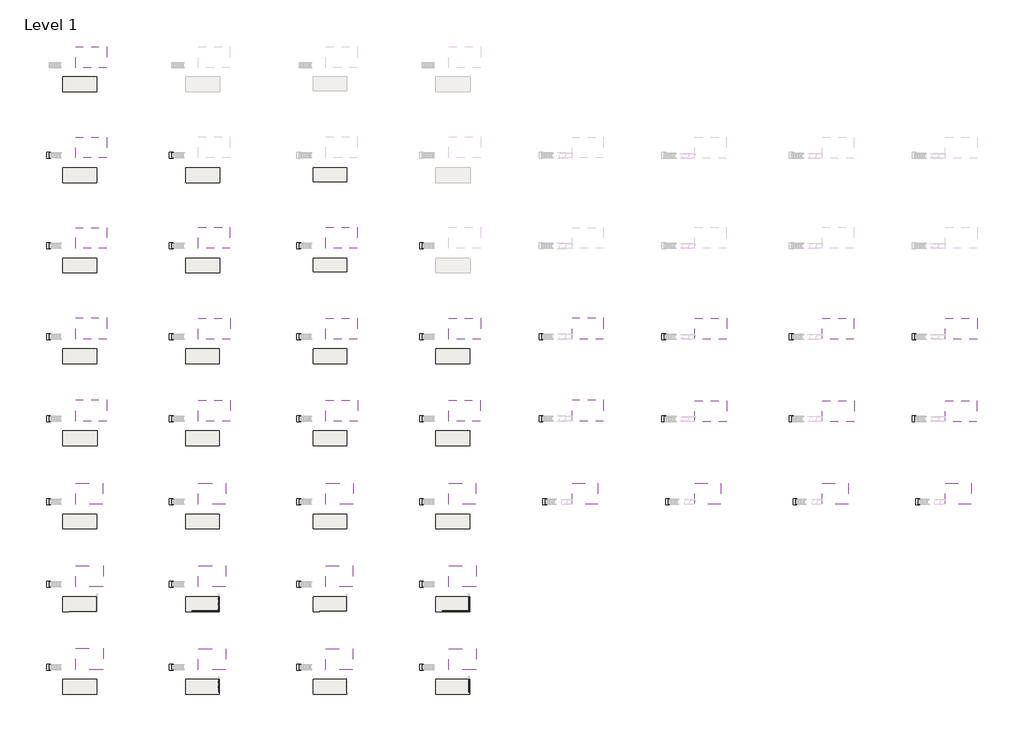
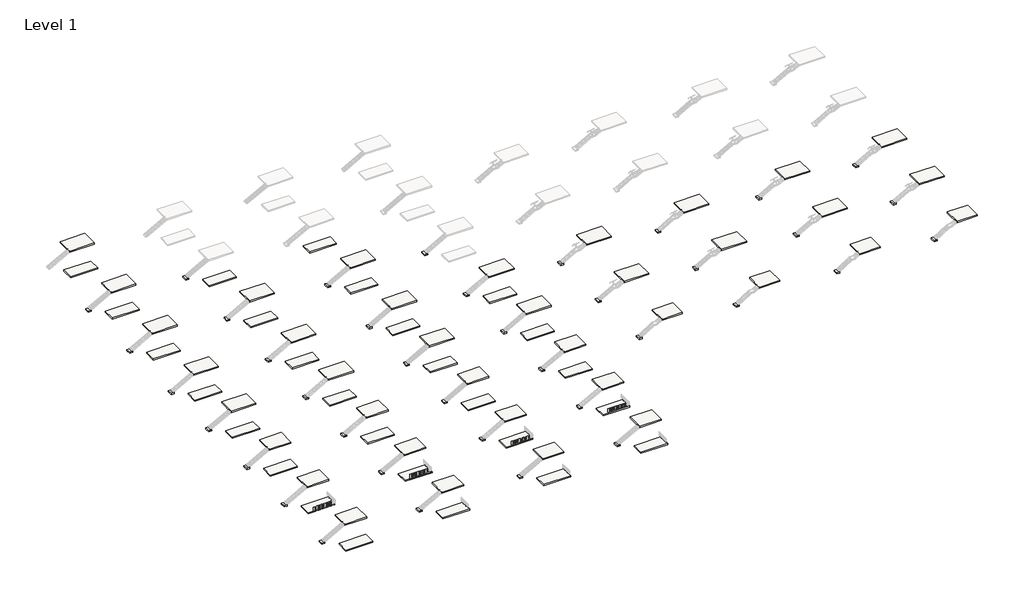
# One storey, part 1 of 26: 102 slabs.
"""IFC4 building model written with IfcOpenShell, lengths in millimetres."""

from ifc_helpers import new_model, si_unit, frame, origin, place, context, project, spatial, polyline, outline, extrude, element, save

model = new_model("IFC4")

# Units and contexts
model_context = context("Model", 3, world=origin())
ifc_project = project(units=[si_unit("LENGTHUNIT", "METRE", prefix="MILLI")], contexts=[model_context])

# Site, building, storey
site = spatial("IfcSite", under=ifc_project)
building = spatial("IfcBuilding", under=site)
storey = spatial("IfcBuildingStorey", under=building, Name="Level 1", Elevation=0.0)

# Slabs
placement = place(None, origin())
element("IfcSlab", 1, ObjectType="Generic - 7 3/4\"", at=placement, inside=storey, context=model_context, shape_type="SweptSolid", body=[
    extrude(outline(polyline([(-4933.3882474, 10855.2487388), (-11740.5882474, 10855.2487388), (-11740.5882474, 13852.4487388), (-4933.3882474, 13852.4487388), (-4933.3882474, 10855.2487388)])), frame((0.0, 0.0, -296.7736), z_axis=(0.0, 0.0, 1.0), x_axis=(1.0, 0.0, 0.0)), (0.0, 0.0, 1.0), 296.7736),
])
element("IfcSlab", 2, ObjectType="Generic - 7 3/4\"", at=placement, inside=storey, context=model_context, shape_type="SweptSolid", body=[
    extrude(outline(polyline([(19819.7855247, 10855.2487388), (12936.3855247, 10855.2487388), (12936.3855247, 13852.4487388), (19819.7855247, 13852.4487388), (19819.7855247, 10855.2487388)])), frame((0.0, 0.0, -296.7736), z_axis=(0.0, 0.0, 1.0), x_axis=(1.0, 0.0, 0.0)), (0.0, 0.0, 1.0), 296.7736),
])
element("IfcSlab", 3, ObjectType="Generic - 7 3/4\"", at=placement, inside=storey, context=model_context, shape_type="SweptSolid", body=[
    extrude(outline(polyline([(45346.7861192, 11058.4481443), (38539.5855247, 11058.4481443), (38539.5855247, 13852.4487388), (45346.7861192, 13852.4487388), (45346.7861192, 11058.4481443)])), frame((0.0, 0.0, -296.7736), z_axis=(0.0, 0.0, 1.0), x_axis=(1.0, 0.0, 0.0)), (0.0, 0.0, 1.0), 296.7736),
])
element("IfcSlab", 4, ObjectType="Generic - 7 3/4\"", at=placement, inside=storey, context=model_context, shape_type="SweptSolid", body=[
    extrude(outline(polyline([(-4933.3882474, -40584.2726373), (-11740.5882474, -40584.2726373), (-11740.5882474, -37587.0726373), (-4933.3882474, -37587.0726373), (-4933.3882474, -40584.2726373)])), frame((0.0, 0.0, -296.7736), z_axis=(0.0, 0.0, 1.0), x_axis=(1.0, 0.0, 0.0)), (0.0, 0.0, 1.0), 296.7736),
])
element("IfcSlab", 5, ObjectType="Generic - 7 3/4\"", at=placement, inside=storey, context=model_context, shape_type="SweptSolid", body=[
    extrude(outline(polyline([(45346.7855247, -40584.2726373), (38539.5855247, -40584.2726373), (38539.5855247, -37587.0726373), (45346.7855247, -37587.0726373), (45346.7855247, -40584.2726373)])), frame((0.0, 0.0, -296.7736), z_axis=(0.0, 0.0, 1.0), x_axis=(1.0, 0.0, 0.0)), (0.0, 0.0, 1.0), 296.7736),
])
element("IfcSlab", 6, ObjectType="Generic - 7 3/4\"", at=placement, inside=storey, context=model_context, shape_type="SweptSolid", body=[
    extrude(outline(polyline([(19743.5855247, -40584.2726373), (12936.3855247, -40584.2726373), (12936.3855247, -37587.0726373), (19743.5855247, -37587.0726373), (19743.5855247, -40584.2726373)])), frame((0.0, 0.0, -296.7736), z_axis=(0.0, 0.0, 1.0), x_axis=(1.0, 0.0, 0.0)), (0.0, 0.0, 1.0), 296.7736),
])
element("IfcSlab", 7, ObjectType="Generic - 7 3/4\"", at=placement, inside=storey, context=model_context, shape_type="SweptSolid", body=[
    extrude(outline(polyline([(-4933.3882474, -7391.5764311), (-11740.5882474, -7391.5764311), (-11740.5882474, -4394.3764311), (-4933.3882474, -4394.3764311), (-4933.3882474, -7391.5764311)])), frame((0.0, 0.0, -296.7736), z_axis=(0.0, 0.0, 1.0), x_axis=(1.0, 0.0, 0.0)), (0.0, 0.0, 1.0), 296.7736),
])
element("IfcSlab", 8, ObjectType="Generic - 7 3/4\"", at=placement, inside=storey, context=model_context, shape_type="SweptSolid", body=[
    extrude(outline(polyline([(45346.7855247, -7391.5764311), (38539.5855247, -7391.5764311), (38539.5855247, -4394.3764311), (45346.7855247, -4394.3764311), (45346.7855247, -7391.5764311)])), frame((0.0, 0.0, -296.7736), z_axis=(0.0, 0.0, 1.0), x_axis=(1.0, 0.0, 0.0)), (0.0, 0.0, 1.0), 296.7736),
])
element("IfcSlab", 9, ObjectType="Generic - 7 3/4\"", at=placement, inside=storey, context=model_context, shape_type="SweptSolid", body=[
    extrude(outline(polyline([(19743.5855247, -7391.5764311), (12936.3855247, -7391.5764311), (12936.3855247, -4394.3764311), (19743.5855247, -4394.3764311), (19743.5855247, -7391.5764311)])), frame((0.0, 0.0, -296.7736), z_axis=(0.0, 0.0, 1.0), x_axis=(1.0, 0.0, 0.0)), (0.0, 0.0, 1.0), 296.7736),
])
element("IfcSlab", 10, ObjectType="Generic - 7 3/4\"", at=placement, inside=storey, context=model_context, shape_type="SweptSolid", body=[
    extrude(outline(polyline([(-4831.7884531, -23859.4898555), (-11740.5882474, -23859.4898555), (-11740.5882474, -20862.2898555), (-4831.7884531, -20862.2898555), (-4831.7884531, -23859.4898555)])), frame((0.0, 0.0, -296.7736), z_axis=(0.0, 0.0, 1.0), x_axis=(1.0, 0.0, 0.0)), (0.0, 0.0, 1.0), 296.7736),
])
element("IfcSlab", 11, ObjectType="Generic - 7 3/4\"", at=placement, inside=storey, context=model_context, shape_type="SweptSolid", body=[
    extrude(outline(polyline([(45346.7855247, -23859.4898555), (38539.5855247, -23859.4898555), (38539.5855247, -20862.2898555), (45346.7855247, -20862.2898555), (45346.7855247, -23859.4898555)])), frame((0.0, 0.0, -296.7736), z_axis=(0.0, 0.0, 1.0), x_axis=(1.0, 0.0, 0.0)), (0.0, 0.0, 1.0), 296.7736),
])
element("IfcSlab", 12, ObjectType="Generic - 7 3/4\"", at=placement, inside=storey, context=model_context, shape_type="SweptSolid", body=[
    extrude(outline(polyline([(19743.5855247, -23859.4898555), (12936.3855247, -23859.4898555), (12936.3855247, -20862.2898555), (19743.5855247, -20862.2898555), (19743.5855247, -23859.4898555)])), frame((0.0, 0.0, -296.7736), z_axis=(0.0, 0.0, 1.0), x_axis=(1.0, 0.0, 0.0)), (0.0, 0.0, 1.0), 296.7736),
])
element("IfcSlab", 13, ObjectType="Generic - 7 3/4\"", at=placement, inside=storey, context=model_context, shape_type="SweptSolid", body=[
    extrude(outline(polyline([(-4933.3882474, -57184.4334719), (-11740.5882474, -57184.4334719), (-11740.5882474, -54187.2334719), (-4933.3882474, -54187.2334719), (-4933.3882474, -57184.4334719)])), frame((0.0, 0.0, -296.7736), z_axis=(0.0, 0.0, 1.0), x_axis=(1.0, 0.0, 0.0)), (0.0, 0.0, 1.0), 296.7736),
])
element("IfcSlab", 14, ObjectType="Generic - 7 3/4\"", at=placement, inside=storey, context=model_context, shape_type="SweptSolid", body=[
    extrude(outline(polyline([(45346.7855247, -57184.4334719), (38539.5855247, -57184.4334719), (38539.5855247, -54187.2334719), (45346.7855247, -54187.2334719), (45346.7855247, -57184.4334719)])), frame((0.0, 0.0, -296.7736), z_axis=(0.0, 0.0, 1.0), x_axis=(1.0, 0.0, 0.0)), (0.0, 0.0, 1.0), 296.7736),
])
element("IfcSlab", 15, ObjectType="Generic - 7 3/4\"", at=placement, inside=storey, context=model_context, shape_type="SweptSolid", body=[
    extrude(outline(polyline([(19743.5855247, -57184.4334719), (12936.3855247, -57184.4334719), (12936.3855247, -54187.2334719), (19743.5855247, -54187.2334719), (19743.5855247, -57184.4334719)])), frame((0.0, 0.0, -296.7736), z_axis=(0.0, 0.0, 1.0), x_axis=(1.0, 0.0, 0.0)), (0.0, 0.0, 1.0), 296.7736),
])
element("IfcSlab", 16, ObjectType="Generic - 7 3/4\"", at=placement, inside=storey, context=model_context, shape_type="SweptSolid", body=[
    extrude(outline(polyline([(70023.7592968, -40584.2726373), (63216.5592968, -40584.2726373), (63216.5592968, -37587.0726373), (70023.7592968, -37587.0726373), (70023.7592968, -40584.2726373)])), frame((0.0, 0.0, -296.7736), z_axis=(0.0, 0.0, 1.0), x_axis=(1.0, 0.0, 0.0)), (0.0, 0.0, 1.0), 296.7736),
])
element("IfcSlab", 17, ObjectType="Generic - 7 3/4\"", at=placement, inside=storey, context=model_context, shape_type="SweptSolid", body=[
    extrude(outline(polyline([(70023.7592968, -7391.5764311), (63216.5592968, -7391.5764311), (63216.5592968, -4394.3764311), (70023.7592968, -4394.3764311), (70023.7592968, -7391.5764311)])), frame((0.0, 0.0, -296.7736), z_axis=(0.0, 0.0, 1.0), x_axis=(1.0, 0.0, 0.0)), (0.0, 0.0, 1.0), 296.7736),
])
element("IfcSlab", 18, ObjectType="Generic - 7 3/4\"", at=placement, inside=storey, context=model_context, shape_type="SweptSolid", body=[
    extrude(outline(polyline([(70023.7592968, -23859.4898555), (63216.5592968, -23859.4898555), (63216.5592968, -20862.2898555), (70023.7592968, -20862.2898555), (70023.7592968, -23859.4898555)])), frame((0.0, 0.0, -296.7736), z_axis=(0.0, 0.0, 1.0), x_axis=(1.0, 0.0, 0.0)), (0.0, 0.0, 1.0), 296.7736),
])
element("IfcSlab", 19, ObjectType="Generic - 7 3/4\"", at=placement, inside=storey, context=model_context, shape_type="SweptSolid", body=[
    extrude(outline(polyline([(70023.7592968, -57184.4334719), (63216.5592968, -57184.4334719), (63216.5592968, -54187.2334719), (70023.7592968, -54187.2334719), (70023.7592968, -57184.4334719)])), frame((0.0, 0.0, -296.7736), z_axis=(0.0, 0.0, 1.0), x_axis=(1.0, 0.0, 0.0)), (0.0, 0.0, 1.0), 296.7736),
])
element("IfcSlab", 20, ObjectType="Generic - 7 3/4\"", at=placement, inside=storey, context=model_context, shape_type="SweptSolid", body=[
    extrude(outline(polyline([(-14244.2503044, -19021.0990002), (-15006.2503044, -19021.0990002), (-15006.2503044, -17801.8990002), (-14244.2503044, -17801.8990002), (-14244.2503044, -19021.0990002)])), frame((0.0, 0.0, -296.7736), z_axis=(0.0, 0.0, 1.0), x_axis=(1.0, 0.0, 0.0)), (0.0, 0.0, 1.0), 296.7736),
])
element("IfcSlab", 21, ObjectType="Generic - 7 3/4\"", at=placement, inside=storey, context=model_context, shape_type="SweptSolid", body=[
    extrude(outline(polyline([(-14244.2503044, -2553.1855758), (-15006.2503044, -2553.1855758), (-15006.2503044, -1333.9855758), (-14244.2503044, -1333.9855758), (-14244.2503044, -2553.1855758)])), frame((0.0, 0.0, -296.7736), z_axis=(0.0, 0.0, 1.0), x_axis=(1.0, 0.0, 0.0)), (0.0, 0.0, 1.0), 296.7736),
])
element("IfcSlab", 22, ObjectType="Generic - 7 3/4\"", at=placement, inside=storey, context=model_context, shape_type="SweptSolid", body=[
    extrude(outline(polyline([(-14244.2503044, 15693.6395941), (-15006.2503044, 15693.6395941), (-15006.2503044, 16912.8395941), (-14244.2503044, 16912.8395941), (-14244.2503044, 15693.6395941)])), frame((0.0, 0.0, -296.7736), z_axis=(0.0, 0.0, 1.0), x_axis=(1.0, 0.0, 0.0)), (0.0, 0.0, 1.0), 296.7736),
])
element("IfcSlab", 23, ObjectType="Generic - 7 3/4\"", at=placement, inside=storey, context=model_context, shape_type="SweptSolid", body=[
    extrude(outline(polyline([(10432.7234676, 15693.6395941), (9670.7234676, 15693.6395941), (9670.7234676, 16912.8395941), (10432.7234676, 16912.8395941), (10432.7234676, 15693.6395941)])), frame((0.0, 0.0, -296.7736), z_axis=(0.0, 0.0, 1.0), x_axis=(1.0, 0.0, 0.0)), (0.0, 0.0, 1.0), 296.7736),
])
element("IfcSlab", 24, ObjectType="Generic - 7 3/4\"", at=placement, inside=storey, context=model_context, shape_type="SweptSolid", body=[
    extrude(outline(polyline([(36035.9234676, 15693.6395941), (35273.9234676, 15693.6395941), (35273.9234676, 16912.8395941), (36035.9234676, 16912.8395941), (36035.9234676, 15693.6395941)])), frame((0.0, 0.0, -296.7736), z_axis=(0.0, 0.0, 1.0), x_axis=(1.0, 0.0, 0.0)), (0.0, 0.0, 1.0), 296.7736),
])
element("IfcSlab", 25, ObjectType="Generic - 7 3/4\"", at=placement, inside=storey, context=model_context, shape_type="SweptSolid", body=[
    extrude(outline(polyline([(60712.8972397, 15693.6395941), (59950.8972397, 15693.6395941), (59950.8972397, 16912.8395941), (60712.8972397, 16912.8395941), (60712.8972397, 15693.6395941)])), frame((0.0, 0.0, -296.7736), z_axis=(0.0, 0.0, 1.0), x_axis=(1.0, 0.0, 0.0)), (0.0, 0.0, 1.0), 296.7736),
])
element("IfcSlab", 26, ObjectType="Generic - 7 3/4\"", at=placement, inside=storey, context=model_context, shape_type="SweptSolid", body=[
    extrude(outline(polyline([(10432.7234676, -2553.1855758), (9670.7234676, -2553.1855758), (9670.7234676, -1333.9855758), (10432.7234676, -1333.9855758), (10432.7234676, -2553.1855758)])), frame((0.0, 0.0, -296.7736), z_axis=(0.0, 0.0, 1.0), x_axis=(1.0, 0.0, 0.0)), (0.0, 0.0, 1.0), 296.7736),
])
element("IfcSlab", 27, ObjectType="Generic - 7 3/4\"", at=placement, inside=storey, context=model_context, shape_type="SweptSolid", body=[
    extrude(outline(polyline([(36035.9234676, -2553.1855758), (35273.9234676, -2553.1855758), (35273.9234676, -1333.9855758), (36035.9234676, -1333.9855758), (36035.9234676, -2553.1855758)])), frame((0.0, 0.0, -296.7736), z_axis=(0.0, 0.0, 1.0), x_axis=(1.0, 0.0, 0.0)), (0.0, 0.0, 1.0), 296.7736),
])
element("IfcSlab", 28, ObjectType="Generic - 7 3/4\"", at=placement, inside=storey, context=model_context, shape_type="SweptSolid", body=[
    extrude(outline(polyline([(60712.8972397, -2553.1855758), (59950.8972397, -2553.1855758), (59950.8972397, -1333.9855758), (60712.8972397, -1333.9855758), (60712.8972397, -2553.1855758)])), frame((0.0, 0.0, -296.7736), z_axis=(0.0, 0.0, 1.0), x_axis=(1.0, 0.0, 0.0)), (0.0, 0.0, 1.0), 296.7736),
])
element("IfcSlab", 29, ObjectType="Generic - 7 3/4\"", at=placement, inside=storey, context=model_context, shape_type="SweptSolid", body=[
    extrude(outline(polyline([(10432.7234676, -19021.0990002), (9670.7234676, -19021.0990002), (9670.7234676, -17801.8990002), (10432.7234676, -17801.8990002), (10432.7234676, -19021.0990002)])), frame((0.0, 0.0, -296.7736), z_axis=(0.0, 0.0, 1.0), x_axis=(1.0, 0.0, 0.0)), (0.0, 0.0, 1.0), 296.7736),
])
element("IfcSlab", 30, ObjectType="Generic - 7 3/4\"", at=placement, inside=storey, context=model_context, shape_type="SweptSolid", body=[
    extrude(outline(polyline([(36035.9234676, -19021.0990002), (35273.9234676, -19021.0990002), (35273.9234676, -17801.8990002), (36035.9234676, -17801.8990002), (36035.9234676, -19021.0990002)])), frame((0.0, 0.0, -296.7736), z_axis=(0.0, 0.0, 1.0), x_axis=(1.0, 0.0, 0.0)), (0.0, 0.0, 1.0), 296.7736),
])
element("IfcSlab", 31, ObjectType="Generic - 7 3/4\"", at=placement, inside=storey, context=model_context, shape_type="SweptSolid", body=[
    extrude(outline(polyline([(60712.8972397, -19021.0990002), (59950.8972397, -19021.0990002), (59950.8972397, -17801.8990002), (60712.8972397, -17801.8990002), (60712.8972397, -19021.0990002)])), frame((0.0, 0.0, -296.7736), z_axis=(0.0, 0.0, 1.0), x_axis=(1.0, 0.0, 0.0)), (0.0, 0.0, 1.0), 296.7736),
])
element("IfcSlab", 32, ObjectType="Generic - 7 3/4\"", at=placement, inside=storey, context=model_context, shape_type="SweptSolid", body=[
    extrude(outline(polyline([(-14244.2503044, -35745.881782), (-15006.2503044, -35745.881782), (-15006.2503044, -34526.681782), (-14244.2503044, -34526.681782), (-14244.2503044, -35745.881782)])), frame((0.0, 0.0, -296.7736), z_axis=(0.0, 0.0, 1.0), x_axis=(1.0, 0.0, 0.0)), (0.0, 0.0, 1.0), 296.7736),
])
element("IfcSlab", 33, ObjectType="Generic - 7 3/4\"", at=placement, inside=storey, context=model_context, shape_type="SweptSolid", body=[
    extrude(outline(polyline([(10432.7234676, -35745.881782), (9670.7234676, -35745.881782), (9670.7234676, -34526.681782), (10432.7234676, -34526.681782), (10432.7234676, -35745.881782)])), frame((0.0, 0.0, -296.7736), z_axis=(0.0, 0.0, 1.0), x_axis=(1.0, 0.0, 0.0)), (0.0, 0.0, 1.0), 296.7736),
])
element("IfcSlab", 34, ObjectType="Generic - 7 3/4\"", at=placement, inside=storey, context=model_context, shape_type="SweptSolid", body=[
    extrude(outline(polyline([(36035.9234676, -35745.881782), (35273.9234676, -35745.881782), (35273.9234676, -34526.681782), (36035.9234676, -34526.681782), (36035.9234676, -35745.881782)])), frame((0.0, 0.0, -296.7736), z_axis=(0.0, 0.0, 1.0), x_axis=(1.0, 0.0, 0.0)), (0.0, 0.0, 1.0), 296.7736),
])
element("IfcSlab", 35, ObjectType="Generic - 7 3/4\"", at=placement, inside=storey, context=model_context, shape_type="SweptSolid", body=[
    extrude(outline(polyline([(60712.8972397, -35745.881782), (59950.8972397, -35745.881782), (59950.8972397, -34526.681782), (60712.8972397, -34526.681782), (60712.8972397, -35745.881782)])), frame((0.0, 0.0, -296.7736), z_axis=(0.0, 0.0, 1.0), x_axis=(1.0, 0.0, 0.0)), (0.0, 0.0, 1.0), 296.7736),
])
element("IfcSlab", 36, ObjectType="Generic - 7 3/4\"", at=placement, inside=storey, context=model_context, shape_type="SweptSolid", body=[
    extrude(outline(polyline([(-14244.2503044, -52346.0426165), (-15006.2503044, -52346.0426165), (-15006.2503044, -51126.8426165), (-14244.2503044, -51126.8426165), (-14244.2503044, -52346.0426165)])), frame((0.0, 0.0, -296.7736), z_axis=(0.0, 0.0, 1.0), x_axis=(1.0, 0.0, 0.0)), (0.0, 0.0, 1.0), 296.7736),
])
element("IfcSlab", 37, ObjectType="Generic - 7 3/4\"", at=placement, inside=storey, context=model_context, shape_type="SweptSolid", body=[
    extrude(outline(polyline([(10432.7234676, -52346.0426165), (9670.7234676, -52346.0426165), (9670.7234676, -51126.8426165), (10432.7234676, -51126.8426165), (10432.7234676, -52346.0426165)])), frame((0.0, 0.0, -296.7736), z_axis=(0.0, 0.0, 1.0), x_axis=(1.0, 0.0, 0.0)), (0.0, 0.0, 1.0), 296.7736),
])
element("IfcSlab", 38, ObjectType="Generic - 7 3/4\"", at=placement, inside=storey, context=model_context, shape_type="SweptSolid", body=[
    extrude(outline(polyline([(36035.9234676, -52346.0426165), (35273.9234676, -52346.0426165), (35273.9234676, -51126.8426165), (36035.9234676, -51126.8426165), (36035.9234676, -52346.0426165)])), frame((0.0, 0.0, -296.7736), z_axis=(0.0, 0.0, 1.0), x_axis=(1.0, 0.0, 0.0)), (0.0, 0.0, 1.0), 296.7736),
])
element("IfcSlab", 39, ObjectType="Generic - 7 3/4\"", at=placement, inside=storey, context=model_context, shape_type="SweptSolid", body=[
    extrude(outline(polyline([(60712.8972397, -52346.0426165), (59950.8972397, -52346.0426165), (59950.8972397, -51126.8426165), (60712.8972397, -51126.8426165), (60712.8972397, -52346.0426165)])), frame((0.0, 0.0, -296.7736), z_axis=(0.0, 0.0, 1.0), x_axis=(1.0, 0.0, 0.0)), (0.0, 0.0, 1.0), 296.7736),
])
element("IfcSlab", 40, ObjectType="Generic - 7 3/4\"", at=placement, inside=storey, context=model_context, shape_type="SweptSolid", body=[
    extrude(outline(polyline([(-4933.3882474, -73784.5943064), (-11740.5882474, -73784.5943064), (-11740.5882474, -70787.3943064), (-4933.3882474, -70787.3943064), (-4933.3882474, -73784.5943064)])), frame((0.0, 0.0, -296.7736), z_axis=(0.0, 0.0, 1.0), x_axis=(1.0, 0.0, 0.0)), (0.0, 0.0, 1.0), 296.7736),
])
element("IfcSlab", 41, ObjectType="Generic - 7 3/4\"", at=placement, inside=storey, context=model_context, shape_type="SweptSolid", body=[
    extrude(outline(polyline([(45346.7855247, -73784.5943064), (38539.5855247, -73784.5943064), (38539.5855247, -70787.3943064), (45346.7855247, -70787.3943064), (45346.7855247, -73784.5943064)])), frame((0.0, 0.0, -296.7736), z_axis=(0.0, 0.0, 1.0), x_axis=(1.0, 0.0, 0.0)), (0.0, 0.0, 1.0), 296.7736),
])
element("IfcSlab", 42, ObjectType="Generic - 7 3/4\"", at=placement, inside=storey, context=model_context, shape_type="SweptSolid", body=[
    extrude(outline(polyline([(19743.5855247, -73784.5943064), (12936.3855247, -73784.5943064), (12936.3855247, -70787.3943064), (19743.5855247, -70787.3943064), (19743.5855247, -73784.5943064)])), frame((0.0, 0.0, -296.7736), z_axis=(0.0, 0.0, 1.0), x_axis=(1.0, 0.0, 0.0)), (0.0, 0.0, 1.0), 296.7736),
])
element("IfcSlab", 43, ObjectType="Generic - 7 3/4\"", at=placement, inside=storey, context=model_context, shape_type="SweptSolid", body=[
    extrude(outline(polyline([(70023.7592968, -73784.5943064), (63216.5592968, -73784.5943064), (63216.5592968, -70787.3943064), (70023.7592968, -70787.3943064), (70023.7592968, -73784.5943064)])), frame((0.0, 0.0, -296.7736), z_axis=(0.0, 0.0, 1.0), x_axis=(1.0, 0.0, 0.0)), (0.0, 0.0, 1.0), 296.7736),
])
element("IfcSlab", 44, ObjectType="Generic - 7 3/4\"", at=placement, inside=storey, context=model_context, shape_type="SweptSolid", body=[
    extrude(outline(polyline([(-14244.2503044, -68946.2034511), (-15006.2503044, -68946.2034511), (-15006.2503044, -67727.0034511), (-14244.2503044, -67727.0034511), (-14244.2503044, -68946.2034511)])), frame((0.0, 0.0, -296.7736), z_axis=(0.0, 0.0, 1.0), x_axis=(1.0, 0.0, 0.0)), (0.0, 0.0, 1.0), 296.7736),
])
element("IfcSlab", 45, ObjectType="Generic - 7 3/4\"", at=placement, inside=storey, context=model_context, shape_type="SweptSolid", body=[
    extrude(outline(polyline([(10432.7234676, -68946.2034511), (9670.7234676, -68946.2034511), (9670.7234676, -67727.0034511), (10432.7234676, -67727.0034511), (10432.7234676, -68946.2034511)])), frame((0.0, 0.0, -296.7736), z_axis=(0.0, 0.0, 1.0), x_axis=(1.0, 0.0, 0.0)), (0.0, 0.0, 1.0), 296.7736),
])
element("IfcSlab", 46, ObjectType="Generic - 7 3/4\"", at=placement, inside=storey, context=model_context, shape_type="SweptSolid", body=[
    extrude(outline(polyline([(36035.9234676, -68946.2034511), (35273.9234676, -68946.2034511), (35273.9234676, -67727.0034511), (36035.9234676, -67727.0034511), (36035.9234676, -68946.2034511)])), frame((0.0, 0.0, -296.7736), z_axis=(0.0, 0.0, 1.0), x_axis=(1.0, 0.0, 0.0)), (0.0, 0.0, 1.0), 296.7736),
])
element("IfcSlab", 47, ObjectType="Generic - 7 3/4\"", at=placement, inside=storey, context=model_context, shape_type="SweptSolid", body=[
    extrude(outline(polyline([(60712.8972397, -68946.2034511), (59950.8972397, -68946.2034511), (59950.8972397, -67727.0034511), (60712.8972397, -67727.0034511), (60712.8972397, -68946.2034511)])), frame((0.0, 0.0, -296.7736), z_axis=(0.0, 0.0, 1.0), x_axis=(1.0, 0.0, 0.0)), (0.0, 0.0, 1.0), 296.7736),
])
element("IfcSlab", 48, ObjectType="Generic - 7 3/4\"", at=placement, inside=storey, context=model_context, shape_type="SweptSolid", body=[
    extrude(outline(polyline([(-4933.3882474, 29016.2487388), (-11740.5882474, 29016.2487388), (-11740.5882474, 32013.4487388), (-4933.3882474, 32013.4487388), (-4933.3882474, 29016.2487388)])), frame((0.0, 0.0, -296.7736), z_axis=(0.0, 0.0, 1.0), x_axis=(1.0, 0.0, 0.0)), (0.0, 0.0, 1.0), 296.7736),
])
element("IfcSlab", 49, ObjectType="Generic - 7 3/4\"", at=placement, inside=storey, context=model_context, shape_type="SweptSolid", body=[
    extrude(outline(polyline([(19819.7855247, 29016.2487388), (12936.3855247, 29016.2487388), (12936.3855247, 32013.4487388), (19819.7855247, 32013.4487388), (19819.7855247, 29016.2487388)])), frame((0.0, 0.0, -296.7736), z_axis=(0.0, 0.0, 1.0), x_axis=(1.0, 0.0, 0.0)), (0.0, 0.0, 1.0), 296.7736),
])
element("IfcSlab", 50, ObjectType="Generic - 7 3/4\"", at=placement, inside=storey, context=model_context, shape_type="SweptSolid", body=[
    extrude(outline(polyline([(45346.7861192, 29219.4481443), (38539.5855247, 29219.4481443), (38539.5855247, 32013.4487388), (45346.7861192, 32013.4487388), (45346.7861192, 29219.4481443)])), frame((0.0, 0.0, -296.7736), z_axis=(0.0, 0.0, 1.0), x_axis=(1.0, 0.0, 0.0)), (0.0, 0.0, 1.0), 296.7736),
])
element("IfcSlab", 51, ObjectType="Generic - 7 3/4\"", at=placement, inside=storey, context=model_context, shape_type="SweptSolid", body=[
    extrude(outline(polyline([(-14244.2503044, 33854.6395941), (-15006.2503044, 33854.6395941), (-15006.2503044, 35073.8395941), (-14244.2503044, 35073.8395941), (-14244.2503044, 33854.6395941)])), frame((0.0, 0.0, -296.7736), z_axis=(0.0, 0.0, 1.0), x_axis=(1.0, 0.0, 0.0)), (0.0, 0.0, 1.0), 296.7736),
])
element("IfcSlab", 52, ObjectType="Generic - 7 3/4\"", at=placement, inside=storey, context=model_context, shape_type="SweptSolid", body=[
    extrude(outline(polyline([(10432.7234676, 33854.6395941), (9670.7234676, 33854.6395941), (9670.7234676, 35073.8395941), (10432.7234676, 35073.8395941), (10432.7234676, 33854.6395941)])), frame((0.0, 0.0, -296.7736), z_axis=(0.0, 0.0, 1.0), x_axis=(1.0, 0.0, 0.0)), (0.0, 0.0, 1.0), 296.7736),
])
element("IfcSlab", 53, ObjectType="Generic - 7 3/4\"", at=placement, inside=storey, context=model_context, shape_type="SweptSolid", body=[
    extrude(outline(polyline([(-4933.3882474, 47263.0739087), (-11740.5882474, 47263.0739087), (-11740.5882474, 50260.2739087), (-4933.3882474, 50260.2739087), (-4933.3882474, 47263.0739087)])), frame((0.0, 0.0, -296.7736), z_axis=(0.0, 0.0, 1.0), x_axis=(1.0, 0.0, 0.0)), (0.0, 0.0, 1.0), 296.7736),
])
element("IfcSlab", 54, ObjectType="Generic - 7 3/4\"", at=placement, inside=storey, context=model_context, shape_type="SweptSolid", body=[
    extrude(outline(polyline([(84743.5482046, -19021.0990002), (83981.5482046, -19021.0990002), (83981.5482046, -17801.8990002), (84743.5482046, -17801.8990002), (84743.5482046, -19021.0990002)])), frame((0.0, 0.0, -296.7736), z_axis=(0.0, 0.0, 1.0), x_axis=(1.0, 0.0, 0.0)), (0.0, 0.0, 1.0), 296.7736),
])
element("IfcSlab", 55, ObjectType="Generic - 7 3/4\"", at=placement, inside=storey, context=model_context, shape_type="SweptSolid", body=[
    extrude(outline(polyline([(84743.5482046, -2553.1855758), (83981.5482046, -2553.1855758), (83981.5482046, -1333.9855758), (84743.5482046, -1333.9855758), (84743.5482046, -2553.1855758)])), frame((0.0, 0.0, -296.7736), z_axis=(0.0, 0.0, 1.0), x_axis=(1.0, 0.0, 0.0)), (0.0, 0.0, 1.0), 296.7736),
])
element("IfcSlab", 56, ObjectType="Generic - 7 3/4\"", at=placement, inside=storey, context=model_context, shape_type="SweptSolid", body=[
    extrude(outline(polyline([(109420.5219767, -2553.1855758), (108658.5219767, -2553.1855758), (108658.5219767, -1333.9855758), (109420.5219767, -1333.9855758), (109420.5219767, -2553.1855758)])), frame((0.0, 0.0, -296.7736), z_axis=(0.0, 0.0, 1.0), x_axis=(1.0, 0.0, 0.0)), (0.0, 0.0, 1.0), 296.7736),
])
element("IfcSlab", 57, ObjectType="Generic - 7 3/4\"", at=placement, inside=storey, context=model_context, shape_type="SweptSolid", body=[
    extrude(outline(polyline([(135023.7219767, -2553.1855758), (134261.7219767, -2553.1855758), (134261.7219767, -1333.9855758), (135023.7219767, -1333.9855758), (135023.7219767, -2553.1855758)])), frame((0.0, 0.0, -296.7736), z_axis=(0.0, 0.0, 1.0), x_axis=(1.0, 0.0, 0.0)), (0.0, 0.0, 1.0), 296.7736),
])
element("IfcSlab", 58, ObjectType="Generic - 7 3/4\"", at=placement, inside=storey, context=model_context, shape_type="SweptSolid", body=[
    extrude(outline(polyline([(159700.6957488, -2553.1855758), (158938.6957488, -2553.1855758), (158938.6957488, -1333.9855758), (159700.6957488, -1333.9855758), (159700.6957488, -2553.1855758)])), frame((0.0, 0.0, -296.7736), z_axis=(0.0, 0.0, 1.0), x_axis=(1.0, 0.0, 0.0)), (0.0, 0.0, 1.0), 296.7736),
])
element("IfcSlab", 59, ObjectType="Generic - 7 3/4\"", at=placement, inside=storey, context=model_context, shape_type="SweptSolid", body=[
    extrude(outline(polyline([(109420.5219767, -19021.0990002), (108658.5219767, -19021.0990002), (108658.5219767, -17801.8990002), (109420.5219767, -17801.8990002), (109420.5219767, -19021.0990002)])), frame((0.0, 0.0, -296.7736), z_axis=(0.0, 0.0, 1.0), x_axis=(1.0, 0.0, 0.0)), (0.0, 0.0, 1.0), 296.7736),
])
element("IfcSlab", 60, ObjectType="Generic - 7 3/4\"", at=placement, inside=storey, context=model_context, shape_type="SweptSolid", body=[
    extrude(outline(polyline([(135023.7219767, -19021.0990002), (134261.7219767, -19021.0990002), (134261.7219767, -17801.8990002), (135023.7219767, -17801.8990002), (135023.7219767, -19021.0990002)])), frame((0.0, 0.0, -296.7736), z_axis=(0.0, 0.0, 1.0), x_axis=(1.0, 0.0, 0.0)), (0.0, 0.0, 1.0), 296.7736),
])
element("IfcSlab", 61, ObjectType="Generic - 7 3/4\"", at=placement, inside=storey, context=model_context, shape_type="SweptSolid", body=[
    extrude(outline(polyline([(159700.6957488, -19021.0990002), (158938.6957488, -19021.0990002), (158938.6957488, -17801.8990002), (159700.6957488, -17801.8990002), (159700.6957488, -19021.0990002)])), frame((0.0, 0.0, -296.7736), z_axis=(0.0, 0.0, 1.0), x_axis=(1.0, 0.0, 0.0)), (0.0, 0.0, 1.0), 296.7736),
])
element("IfcSlab", 62, ObjectType="Generic - 7 3/4\"", at=placement, inside=storey, context=model_context, shape_type="SweptSolid", body=[
    extrude(outline(polyline([(85484.5199616, -35745.881782), (84722.5199616, -35745.881782), (84722.5199616, -34526.681782), (85484.5199616, -34526.681782), (85484.5199616, -35745.881782)])), frame((0.0, 0.0, -296.7736), z_axis=(0.0, 0.0, 1.0), x_axis=(1.0, 0.0, 0.0)), (0.0, 0.0, 1.0), 296.7736),
])
element("IfcSlab", 63, ObjectType="Generic - 7 3/4\"", at=placement, inside=storey, context=model_context, shape_type="SweptSolid", body=[
    extrude(outline(polyline([(110161.4937337, -35745.881782), (109399.4937337, -35745.881782), (109399.4937337, -34526.681782), (110161.4937337, -34526.681782), (110161.4937337, -35745.881782)])), frame((0.0, 0.0, -296.7736), z_axis=(0.0, 0.0, 1.0), x_axis=(1.0, 0.0, 0.0)), (0.0, 0.0, 1.0), 296.7736),
])
element("IfcSlab", 64, ObjectType="Generic - 7 3/4\"", at=placement, inside=storey, context=model_context, shape_type="SweptSolid", body=[
    extrude(outline(polyline([(135764.6937337, -35745.881782), (135002.6937337, -35745.881782), (135002.6937337, -34526.681782), (135764.6937337, -34526.681782), (135764.6937337, -35745.881782)])), frame((0.0, 0.0, -296.7736), z_axis=(0.0, 0.0, 1.0), x_axis=(1.0, 0.0, 0.0)), (0.0, 0.0, 1.0), 296.7736),
])
element("IfcSlab", 65, ObjectType="Generic - 7 3/4\"", at=placement, inside=storey, context=model_context, shape_type="SweptSolid", body=[
    extrude(outline(polyline([(160441.6675057, -35745.881782), (159679.6675057, -35745.881782), (159679.6675057, -34526.681782), (160441.6675057, -34526.681782), (160441.6675057, -35745.881782)])), frame((0.0, 0.0, -296.7736), z_axis=(0.0, 0.0, 1.0), x_axis=(1.0, 0.0, 0.0)), (0.0, 0.0, 1.0), 296.7736),
])
element("IfcSlab", 66, ObjectType="Generic 11.5\"", at=placement, inside=storey, context=model_context, shape_type="SweptSolid", body=[
    extrude(outline(polyline([(-2908.0966851, 15795.2395941), (-9164.1164794, 15795.2395941), (-9164.1164794, 19986.2395941), (-2908.0966851, 19986.2395941), (-2908.0966851, 15795.2395941)])), frame((0.0, 0.0, 2753.9188), z_axis=(0.0, 0.0, 1.0), x_axis=(1.0, 0.0, 0.0)), (0.0, 0.0, 1.0), 294.0812),
])
element("IfcSlab", 67, ObjectType="Generic 11.5\"", at=placement, inside=storey, context=model_context, shape_type="SweptSolid", body=[
    extrude(outline(polyline([(21837.4572927, 15795.2395941), (15512.8572927, 15795.2395941), (15512.8572927, 20018.7009998), (21837.4572927, 20018.7009998), (21837.4572927, 15795.2395941)])), frame((0.0, 0.0, 2753.9188), z_axis=(0.0, 0.0, 1.0), x_axis=(1.0, 0.0, 0.0)), (0.0, 0.0, 1.0), 294.0812),
])
element("IfcSlab", 68, ObjectType="Generic 11.5\"", at=placement, inside=storey, context=model_context, shape_type="SweptSolid", body=[
    extrude(outline(polyline([(47448.5953871, 15795.2395941), (41116.0572927, 15795.2395941), (41116.0572927, 20018.7009998), (47448.5953871, 20018.7009998), (47448.5953871, 15795.2395941)])), frame((0.0, 0.0, 2753.9188), z_axis=(0.0, 0.0, 1.0), x_axis=(1.0, 0.0, 0.0)), (0.0, 0.0, 1.0), 294.0812),
])
element("IfcSlab", 69, ObjectType="Generic 11.5\"", at=placement, inside=storey, context=model_context, shape_type="SweptSolid", body=[
    extrude(outline(polyline([(-3677.7164794, -35644.281782), (-9164.1164794, -35644.281782), (-9164.1164794, -31370.0203763), (-3677.7164794, -31370.0203763), (-3677.7164794, -35644.281782)])), frame((0.0, 0.0, 2753.9188), z_axis=(0.0, 0.0, 1.0), x_axis=(1.0, 0.0, 0.0)), (0.0, 0.0, 1.0), 294.0812),
])
element("IfcSlab", 70, ObjectType="Generic 11.5\"", at=placement, inside=storey, context=model_context, shape_type="SweptSolid", body=[
    extrude(outline(polyline([(46653.2578871, -35644.281782), (41116.0572927, -35644.281782), (41116.0572927, -31420.8203763), (46653.2578871, -31420.8203763), (46653.2578871, -35644.281782)])), frame((0.0, 0.0, 2753.9188), z_axis=(0.0, 0.0, 1.0), x_axis=(1.0, 0.0, 0.0)), (0.0, 0.0, 1.0), 294.0812),
])
element("IfcSlab", 71, ObjectType="Generic 11.5\"", at=placement, inside=storey, context=model_context, shape_type="SweptSolid", body=[
    extrude(outline(polyline([(20999.2572927, -35644.281782), (15512.8572927, -35644.281782), (15512.8572927, -31420.8203763), (20999.2572927, -31420.8203763), (20999.2572927, -35644.281782)])), frame((0.0, 0.0, 2753.9188), z_axis=(0.0, 0.0, 1.0), x_axis=(1.0, 0.0, 0.0)), (0.0, 0.0, 1.0), 294.0812),
])
element("IfcSlab", 72, ObjectType="Generic 11.5\"", at=placement, inside=storey, context=model_context, shape_type="SweptSolid", body=[
    extrude(outline(polyline([(-2909.3666851, -2451.5855758), (-9164.1164794, -2451.5855758), (-9164.1164794, 1816.6052299), (-2909.3666851, 1816.6052299), (-2909.3666851, -2451.5855758)])), frame((0.0, 0.0, 2753.9188), z_axis=(0.0, 0.0, 1.0), x_axis=(1.0, 0.0, 0.0)), (0.0, 0.0, 1.0), 294.0812),
])
element("IfcSlab", 73, ObjectType="Generic 11.5\"", at=placement, inside=storey, context=model_context, shape_type="SweptSolid", body=[
    extrude(outline(polyline([(47453.3572927, -2451.5855758), (41116.0572927, -2451.5855758), (41116.0572927, 1771.8758299), (47453.3572927, 1771.8758299), (47453.3572927, -2451.5855758)])), frame((0.0, 0.0, 2753.9188), z_axis=(0.0, 0.0, 1.0), x_axis=(1.0, 0.0, 0.0)), (0.0, 0.0, 1.0), 294.0812),
])
element("IfcSlab", 74, ObjectType="Generic 11.5\"", at=placement, inside=storey, context=model_context, shape_type="SweptSolid", body=[
    extrude(outline(polyline([(21862.8572927, -2451.5855758), (15512.8572927, -2451.5855758), (15512.8572927, 1771.8758299), (21862.8572927, 1771.8758299), (21862.8572927, -2451.5855758)])), frame((0.0, 0.0, 2753.9188), z_axis=(0.0, 0.0, 1.0), x_axis=(1.0, 0.0, 0.0)), (0.0, 0.0, 1.0), 294.0812),
])
element("IfcSlab", 75, ObjectType="Generic 11.5\"", at=placement, inside=storey, context=model_context, shape_type="SweptSolid", body=[
    extrude(outline(polyline([(-2909.3666851, -18919.4990002), (-9164.1164794, -18919.4990002), (-9164.1164794, -14651.3081945), (-2909.3666851, -14651.3081945), (-2909.3666851, -18919.4990002)])), frame((0.0, 0.0, 2753.9188), z_axis=(0.0, 0.0, 1.0), x_axis=(1.0, 0.0, 0.0)), (0.0, 0.0, 1.0), 294.0812),
])
element("IfcSlab", 76, ObjectType="Generic 11.5\"", at=placement, inside=storey, context=model_context, shape_type="SweptSolid", body=[
    extrude(outline(polyline([(47516.8572927, -18919.4990002), (41116.0572927, -18919.4990002), (41116.0572927, -14696.0375945), (47516.8572927, -14696.0375945), (47516.8572927, -18919.4990002)])), frame((0.0, 0.0, 2753.9188), z_axis=(0.0, 0.0, 1.0), x_axis=(1.0, 0.0, 0.0)), (0.0, 0.0, 1.0), 294.0812),
])
element("IfcSlab", 77, ObjectType="Generic 11.5\"", at=placement, inside=storey, context=model_context, shape_type="SweptSolid", body=[
    extrude(outline(polyline([(21913.6572927, -18919.4990002), (15512.8572927, -18919.4990002), (15512.8572927, -14696.0375945), (21913.6572927, -14696.0375945), (21913.6572927, -18919.4990002)])), frame((0.0, 0.0, 2753.9188), z_axis=(0.0, 0.0, 1.0), x_axis=(1.0, 0.0, 0.0)), (0.0, 0.0, 1.0), 294.0812),
])
element("IfcSlab", 78, ObjectType="Generic 11.5\"", at=placement, inside=storey, context=model_context, shape_type="SweptSolid", body=[
    extrude(outline(polyline([(-3605.7669063, -52244.4426165), (-9164.1164794, -52244.4426165), (-9164.1164794, -47976.2518108), (-3605.7669063, -47976.2518108), (-3605.7669063, -52244.4426165)])), frame((0.0, 0.0, 2753.9188), z_axis=(0.0, 0.0, 1.0), x_axis=(1.0, 0.0, 0.0)), (0.0, 0.0, 1.0), 294.0812),
])
element("IfcSlab", 79, ObjectType="Generic 11.5\"", at=placement, inside=storey, context=model_context, shape_type="SweptSolid", body=[
    extrude(outline(polyline([(46538.8167764, -52244.4426165), (41116.0572927, -52244.4426165), (41116.0572927, -48020.9812108), (46538.8167764, -48020.9812108), (46538.8167764, -52244.4426165)])), frame((0.0, 0.0, 2753.9188), z_axis=(0.0, 0.0, 1.0), x_axis=(1.0, 0.0, 0.0)), (0.0, 0.0, 1.0), 294.0812),
])
element("IfcSlab", 80, ObjectType="Generic 11.5\"", at=placement, inside=storey, context=model_context, shape_type="SweptSolid", body=[
    extrude(outline(polyline([(21049.5199014, -52244.4426165), (15512.8572927, -52244.4426165), (15512.8572927, -48020.9812108), (21049.5199014, -48020.9812108), (21049.5199014, -52244.4426165)])), frame((0.0, 0.0, 2753.9188), z_axis=(0.0, 0.0, 1.0), x_axis=(1.0, 0.0, 0.0)), (0.0, 0.0, 1.0), 294.0812),
])
element("IfcSlab", 81, ObjectType="Generic 11.5\"", at=placement, inside=storey, context=model_context, shape_type="SweptSolid", body=[
    extrude(outline(polyline([(71279.4310647, -35644.281782), (65793.0310647, -35644.281782), (65793.0310647, -31420.8203763), (71279.4310647, -31420.8203763), (71279.4310647, -35644.281782)])), frame((0.0, 0.0, 2753.9188), z_axis=(0.0, 0.0, 1.0), x_axis=(1.0, 0.0, 0.0)), (0.0, 0.0, 1.0), 294.0812),
])
element("IfcSlab", 82, ObjectType="Generic 11.5\"", at=placement, inside=storey, context=model_context, shape_type="SweptSolid", body=[
    extrude(outline(polyline([(72193.8310647, -2451.5855758), (65793.0310647, -2451.5855758), (65793.0310647, 1771.8758299), (72193.8310647, 1771.8758299), (72193.8310647, -2451.5855758)])), frame((0.0, 0.0, 2753.9188), z_axis=(0.0, 0.0, 1.0), x_axis=(1.0, 0.0, 0.0)), (0.0, 0.0, 1.0), 294.0812),
])
element("IfcSlab", 83, ObjectType="Generic 11.5\"", at=placement, inside=storey, context=model_context, shape_type="SweptSolid", body=[
    extrude(outline(polyline([(72168.4310647, -18919.4990002), (65793.0310647, -18919.4990002), (65793.0310647, -14696.0375945), (72168.4310647, -14696.0375945), (72168.4310647, -18919.4990002)])), frame((0.0, 0.0, 2753.9188), z_axis=(0.0, 0.0, 1.0), x_axis=(1.0, 0.0, 0.0)), (0.0, 0.0, 1.0), 294.0812),
])
element("IfcSlab", 84, ObjectType="Generic 11.5\"", at=placement, inside=storey, context=model_context, shape_type="SweptSolid", body=[
    extrude(outline(polyline([(71329.6936734, -52244.4426165), (65793.0310647, -52244.4426165), (65793.0310647, -48020.9812108), (71329.6936734, -48020.9812108), (71329.6936734, -52244.4426165)])), frame((0.0, 0.0, 2753.9188), z_axis=(0.0, 0.0, 1.0), x_axis=(1.0, 0.0, 0.0)), (0.0, 0.0, 1.0), 294.0812),
])
element("IfcSlab", 85, ObjectType="Generic 11.5\"", at=placement, inside=storey, context=model_context, shape_type="SweptSolid", body=[
    extrude(outline(polyline([(-3630.7700313, -68844.6034511), (-9164.1164794, -68844.6034511), (-9164.1164794, -64576.4126454), (-3630.7700313, -64576.4126454), (-3630.7700313, -68844.6034511)])), frame((0.0, 0.0, 2753.9188), z_axis=(0.0, 0.0, 1.0), x_axis=(1.0, 0.0, 0.0)), (0.0, 0.0, 1.0), 294.0812),
])
element("IfcSlab", 86, ObjectType="Generic 11.5\"", at=placement, inside=storey, context=model_context, shape_type="SweptSolid", body=[
    extrude(outline(polyline([(46513.5572927, -68844.6034511), (41116.0572927, -68844.6034511), (41116.0572927, -64621.1420454), (46513.5572927, -64621.1420454), (46513.5572927, -68844.6034511)])), frame((0.0, 0.0, 2753.9188), z_axis=(0.0, 0.0, 1.0), x_axis=(1.0, 0.0, 0.0)), (0.0, 0.0, 1.0), 294.0812),
])
element("IfcSlab", 87, ObjectType="Generic 11.5\"", at=placement, inside=storey, context=model_context, shape_type="SweptSolid", body=[
    extrude(outline(polyline([(21024.5167764, -68844.6034511), (15512.8572927, -68844.6034511), (15512.8572927, -64621.1420454), (21024.5167764, -64621.1420454), (21024.5167764, -68844.6034511)])), frame((0.0, 0.0, 2753.9188), z_axis=(0.0, 0.0, 1.0), x_axis=(1.0, 0.0, 0.0)), (0.0, 0.0, 1.0), 294.0812),
])
element("IfcSlab", 88, ObjectType="Generic 11.5\"", at=placement, inside=storey, context=model_context, shape_type="SweptSolid", body=[
    extrude(outline(polyline([(71304.6905484, -68844.6034511), (65793.0310647, -68844.6034511), (65793.0310647, -64621.1420454), (71304.6905484, -64621.1420454), (71304.6905484, -68844.6034511)])), frame((0.0, 0.0, 2753.9188), z_axis=(0.0, 0.0, 1.0), x_axis=(1.0, 0.0, 0.0)), (0.0, 0.0, 1.0), 294.0812),
])
element("IfcSlab", 89, ObjectType="Generic 11.5\"", at=placement, inside=storey, context=model_context, shape_type="SweptSolid", body=[
    extrude(outline(polyline([(-2908.0966851, 33956.2395941), (-9164.1164794, 33956.2395941), (-9164.1164794, 38147.2395941), (-2908.0966851, 38147.2395941), (-2908.0966851, 33956.2395941)])), frame((0.0, 0.0, 2753.9188), z_axis=(0.0, 0.0, 1.0), x_axis=(1.0, 0.0, 0.0)), (0.0, 0.0, 1.0), 294.0812),
])
element("IfcSlab", 90, ObjectType="Generic 11.5\"", at=placement, inside=storey, context=model_context, shape_type="SweptSolid", body=[
    extrude(outline(polyline([(-2908.0966851, 52125.8739583), (-9164.1164794, 52125.8739583), (-9164.1164794, 56316.8739583), (-2908.0966851, 56316.8739583), (-2908.0966851, 52125.8739583)])), frame((0.0, 0.0, 2753.9188), z_axis=(0.0, 0.0, 1.0), x_axis=(1.0, 0.0, 0.0)), (0.0, 0.0, 1.0), 294.0812),
])
element("IfcSlab", 91, ObjectType="Generic 11.5\"", at=placement, inside=storey, context=model_context, shape_type="SweptSolid", body=[
    extrude(outline(polyline([(95791.3004069, -35644.281782), (90616.0550425, -35644.281782), (90616.0550425, -31370.0203763), (95791.3004069, -31370.0203763), (95791.3004069, -35644.281782)])), frame((0.0, 0.0, 2753.9188), z_axis=(0.0, 0.0, 1.0), x_axis=(1.0, 0.0, 0.0)), (0.0, 0.0, 1.0), 294.0812),
])
element("IfcSlab", 92, ObjectType="Generic 11.5\"", at=placement, inside=storey, context=model_context, shape_type="SweptSolid", body=[
    extrude(outline(polyline([(146071.4788146, -35644.281782), (140896.2288146, -35644.281782), (140896.2288146, -31420.8203763), (146071.4788146, -31420.8203763), (146071.4788146, -35644.281782)])), frame((0.0, 0.0, 2753.9188), z_axis=(0.0, 0.0, 1.0), x_axis=(1.0, 0.0, 0.0)), (0.0, 0.0, 1.0), 294.0812),
])
element("IfcSlab", 93, ObjectType="Generic 11.5\"", at=placement, inside=storey, context=model_context, shape_type="SweptSolid", body=[
    extrude(outline(polyline([(120468.2788146, -35644.281782), (115293.0288146, -35644.281782), (115293.0288146, -31420.8203763), (120468.2788146, -31420.8203763), (120468.2788146, -35644.281782)])), frame((0.0, 0.0, 2753.9188), z_axis=(0.0, 0.0, 1.0), x_axis=(1.0, 0.0, 0.0)), (0.0, 0.0, 1.0), 294.0812),
])
element("IfcSlab", 94, ObjectType="Generic 11.5\"", at=placement, inside=storey, context=model_context, shape_type="SweptSolid", body=[
    extrude(outline(polyline([(96870.8048368, -2451.5855758), (90616.0550425, -2451.5855758), (90616.0550425, 1816.6052299), (96870.8048368, 1816.6052299), (96870.8048368, -2451.5855758)])), frame((0.0, 0.0, 2753.9188), z_axis=(0.0, 0.0, 1.0), x_axis=(1.0, 0.0, 0.0)), (0.0, 0.0, 1.0), 294.0812),
])
element("IfcSlab", 95, ObjectType="Generic 11.5\"", at=placement, inside=storey, context=model_context, shape_type="SweptSolid", body=[
    extrude(outline(polyline([(147233.5288146, -2509.8122415), (140896.2288146, -2509.8122415), (140896.2288146, 1713.6491642), (147233.5288146, 1713.6491642), (147233.5288146, -2509.8122415)])), frame((0.0, 0.0, 2753.9188), z_axis=(0.0, 0.0, 1.0), x_axis=(1.0, 0.0, 0.0)), (0.0, 0.0, 1.0), 294.0812),
])
element("IfcSlab", 96, ObjectType="Generic 11.5\"", at=placement, inside=storey, context=model_context, shape_type="SweptSolid", body=[
    extrude(outline(polyline([(121643.0288146, -2480.6986114), (115293.0288146, -2480.6986114), (115293.0288146, 1742.7627943), (121643.0288146, 1742.7627943), (121643.0288146, -2480.6986114)])), frame((0.0, 0.0, 2753.9188), z_axis=(0.0, 0.0, 1.0), x_axis=(1.0, 0.0, 0.0)), (0.0, 0.0, 1.0), 294.0812),
])
element("IfcSlab", 97, ObjectType="Generic 11.5\"", at=placement, inside=storey, context=model_context, shape_type="SweptSolid", body=[
    extrude(outline(polyline([(96870.8048368, -18919.4990002), (90616.0550425, -18919.4990002), (90616.0550425, -14651.3081945), (96870.8048368, -14651.3081945), (96870.8048368, -18919.4990002)])), frame((0.0, 0.0, 2753.9188), z_axis=(0.0, 0.0, 1.0), x_axis=(1.0, 0.0, 0.0)), (0.0, 0.0, 1.0), 294.0812),
])
element("IfcSlab", 98, ObjectType="Generic 11.5\"", at=placement, inside=storey, context=model_context, shape_type="SweptSolid", body=[
    extrude(outline(polyline([(147297.0288146, -18999.4126303), (140896.2288146, -18999.4126303), (140896.2288146, -14775.9512245), (147297.0288146, -14775.9512245), (147297.0288146, -18999.4126303)])), frame((0.0, 0.0, 2753.9188), z_axis=(0.0, 0.0, 1.0), x_axis=(1.0, 0.0, 0.0)), (0.0, 0.0, 1.0), 294.0812),
])
element("IfcSlab", 99, ObjectType="Generic 11.5\"", at=placement, inside=storey, context=model_context, shape_type="SweptSolid", body=[
    extrude(outline(polyline([(121693.8288146, -18999.4120358), (115293.0288146, -18999.4120358), (115293.0288146, -14775.9506301), (121693.8288146, -14775.9506301), (121693.8288146, -18999.4120358)])), frame((0.0, 0.0, 2753.9188), z_axis=(0.0, 0.0, 1.0), x_axis=(1.0, 0.0, 0.0)), (0.0, 0.0, 1.0), 294.0812),
])
element("IfcSlab", 100, ObjectType="Generic 11.5\"", at=placement, inside=storey, context=model_context, shape_type="SweptSolid", body=[
    extrude(outline(polyline([(170754.8025866, -35644.281782), (165573.2025866, -35644.281782), (165573.2025866, -31420.8203763), (170754.8025866, -31420.8203763), (170754.8025866, -35644.281782)])), frame((0.0, 0.0, 2753.9188), z_axis=(0.0, 0.0, 1.0), x_axis=(1.0, 0.0, 0.0)), (0.0, 0.0, 1.0), 294.0812),
])
element("IfcSlab", 101, ObjectType="Generic 11.5\"", at=placement, inside=storey, context=model_context, shape_type="SweptSolid", body=[
    extrude(outline(polyline([(171974.0025866, -2509.8122415), (165573.2025866, -2509.8122415), (165573.2025866, 1713.6491642), (171974.0025866, 1713.6491642), (171974.0025866, -2509.8122415)])), frame((0.0, 0.0, 2753.9188), z_axis=(0.0, 0.0, 1.0), x_axis=(1.0, 0.0, 0.0)), (0.0, 0.0, 1.0), 294.0812),
])
element("IfcSlab", 102, ObjectType="Generic 11.5\"", at=placement, inside=storey, context=model_context, shape_type="SweptSolid", body=[
    extrude(outline(polyline([(171948.6025866, -19003.1256659), (165573.2025866, -19003.1256659), (165573.2025866, -14779.6642602), (171948.6025866, -14779.6642602), (171948.6025866, -19003.1256659)])), frame((0.0, 0.0, 2753.9188), z_axis=(0.0, 0.0, 1.0), x_axis=(1.0, 0.0, 0.0)), (0.0, 0.0, 1.0), 294.0812),
])

save(model, "model.ifc")
